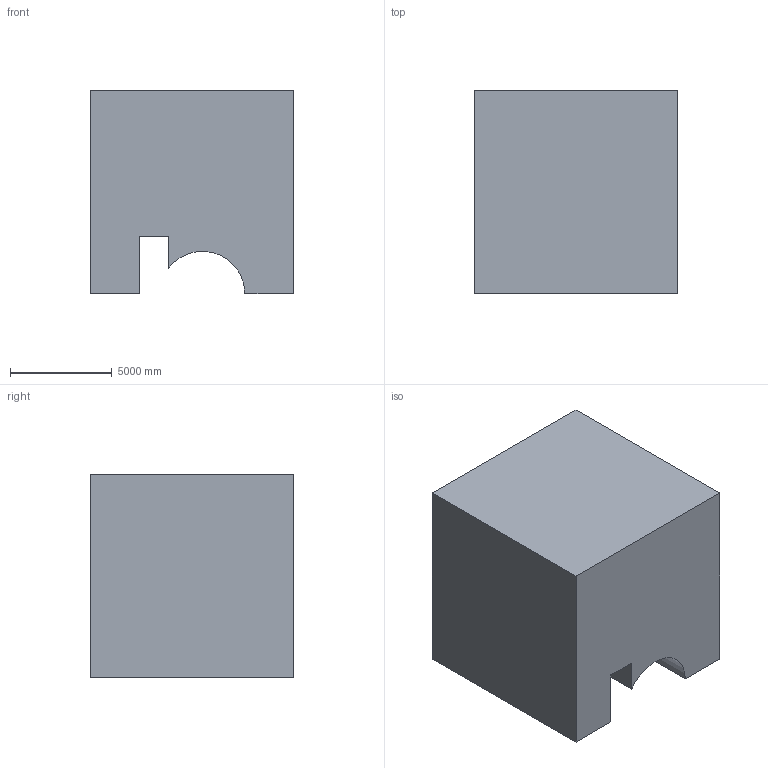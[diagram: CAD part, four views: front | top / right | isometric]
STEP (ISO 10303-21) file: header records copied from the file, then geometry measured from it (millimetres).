
FILE_DESCRIPTION (( 'STEP AP203' ), '1' );
FILE_NAME ('216.STEP', '2022-07-28T13:56:03', ( 'user' ), ( '' ), 'SwSTEP 2.0', 'SolidWorks 2021', '' );
FILE_SCHEMA (( 'CONFIG_CONTROL_DESIGN' ));
Length unit declared in the file: centimetre
Products named in the file (1): 216
Bounding box: 10000 x 10000 x 10000 mm (x, y, z)
Volume: 859530046514.1 mm3; surface area: 661768398.8 mm2
Topology: 1 solids, 1 shells, 14 faces, 36 edges, 24 vertices
Faces by surface type: plane 11, cylinder 3
Entity records: 503 total; most frequent: CARTESIAN_POINT 75, DIRECTION 72, ORIENTED_EDGE 72, EDGE_CURVE 36, LINE 30, VECTOR 30, VERTEX_POINT 24, AXIS2_PLACEMENT_3D 21
